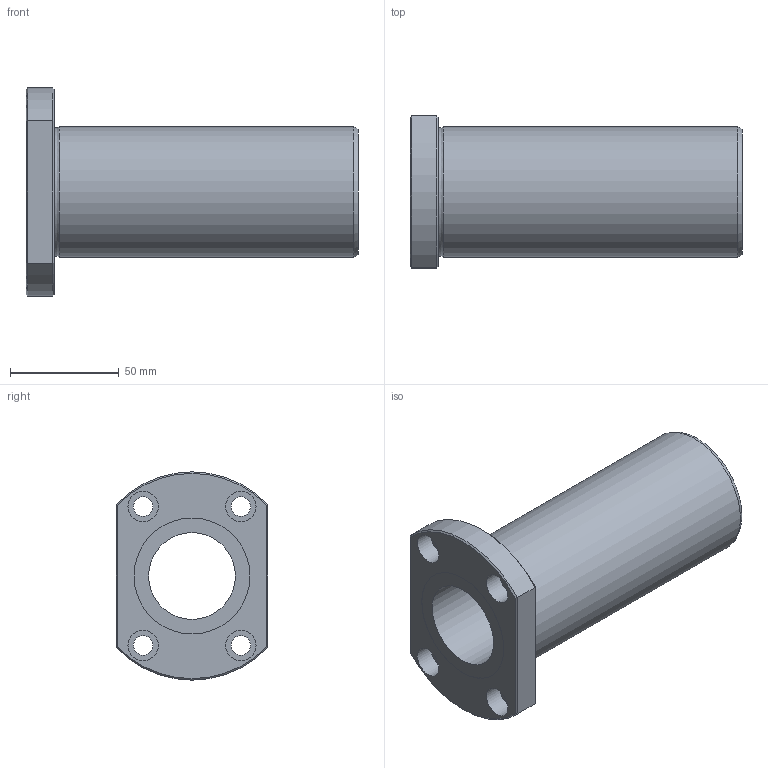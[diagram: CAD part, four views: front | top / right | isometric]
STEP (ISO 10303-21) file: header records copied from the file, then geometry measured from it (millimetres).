
FILE_DESCRIPTION((''),'2;1');
FILE_NAME('D:\製品 (図面)\カタログ用3D\リニアベアリング関連\STEP形式\LFDT\LFDT40B.stp','2010-06-03T09:48:40',('Tsuchiya'),(''),'Autodesk Inventor 10','Autodesk Inventor 10','');
FILE_SCHEMA(('AUTOMOTIVE_DESIGN { 1 0 10303 214 1 1 1 1 }'));
Length unit declared in the file: millimetre
Products named in the file (1): LFDT40B
Bounding box: 153 x 70 x 96 mm (x, y, z)
Volume: 275302.6 mm3; surface area: 60194.9 mm2
Topology: 1 solids, 1 shells, 35 faces, 68 edges, 42 vertices
Faces by surface type: plane 15, cylinder 14, cone 4, torus 1, bspline 1
Full cylindrical faces by diameter (mm): 9 x4, 14 x4, 40 x1, 53.4 x2, 60 x1
Entity records: 935 total; most frequent: CARTESIAN_POINT 218, DIRECTION 150, ORIENTED_EDGE 108, AXIS2_PLACEMENT_3D 69, EDGE_LOOP 66, EDGE_CURVE 54, VERTEX_POINT 42, FACE_OUTER_BOUND 35
